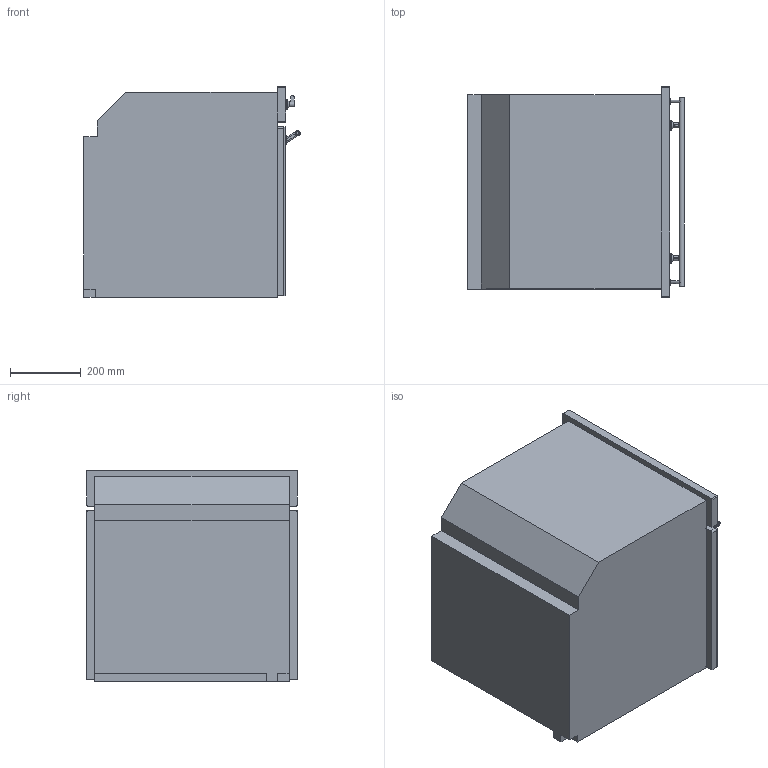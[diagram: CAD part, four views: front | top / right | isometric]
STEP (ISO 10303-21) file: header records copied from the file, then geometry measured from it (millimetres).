
FILE_DESCRIPTION(/* description */ (''),/* implementation_level */ '2;1');
FILE_NAME(/* name */ 'forno sf6300.stp',/* time_stamp */ '2019-07-18T15:34:47+02:00',/* author */ (''),/* organization */ (''),/* preprocessor_version */ 'ST-DEVELOPER v16',/* originating_system */ 'SIEMENS PLM Software NX 11.0',/* authorisation */ '');
FILE_SCHEMA (('AUTOMOTIVE_DESIGN { 1 0 10303 214 3 1 1 1 }'));
Length unit declared in the file: millimetre
Products named in the file (1): gobb24E018C0u1iv
Bounding box: 612.5 x 597 x 596 mm (x, y, z)
Volume: 178085706.6 mm3; surface area: 3478836.6 mm2
Topology: 23 solids, 23 shells, 227 faces, 505 edges, 338 vertices
Faces by surface type: plane 155, cylinder 59, extrusion 11, cone 2
Full cylindrical faces by diameter (mm): 4 x2, 4.608 x6, 5 x2, 7 x2, 8.5 x2, 12 x2, 14 x3, 15 x2, 20 x2, 28 x2
Entity records: 6505 total; most frequent: CARTESIAN_POINT 1368, DIRECTION 1003, ORIENTED_EDGE 934, EDGE_CURVE 467, AXIS2_PLACEMENT_3D 339, VERTEX_POINT 330, VECTOR 325, LINE 314
